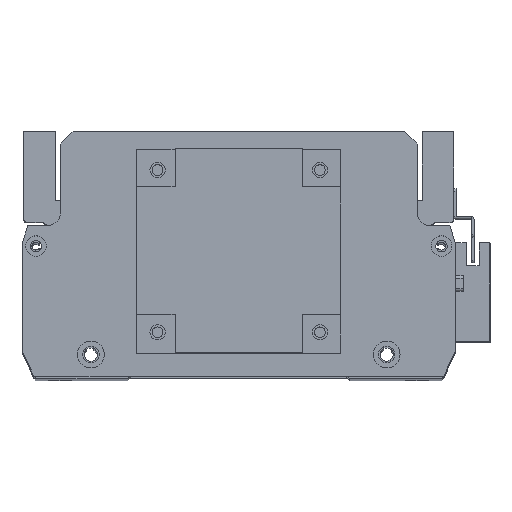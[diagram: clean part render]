
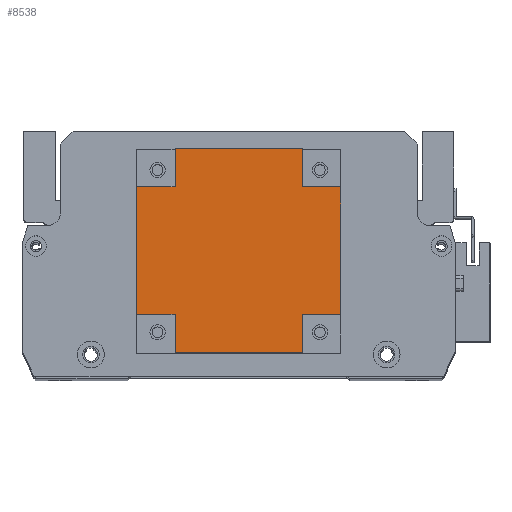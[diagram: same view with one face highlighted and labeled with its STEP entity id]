
A CAD part, top view. The second image highlights one B-rep face of the part: STEP entity #8538.
In plain terms, the highlighted planar face has unit normal (0, 0, 1).
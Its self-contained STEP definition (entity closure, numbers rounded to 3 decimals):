
#96 = LINE ( 'NONE', #6802, #19865 ) ;
#224 = VECTOR ( 'NONE', #14548, 1000. ) ;
#326 = VECTOR ( 'NONE', #13046, 1000. ) ;
#399 = VERTEX_POINT ( 'NONE', #22883 ) ;
#531 = DIRECTION ( 'NONE',  ( 0., 1., 0. ) ) ;
#580 = ORIENTED_EDGE ( 'NONE', *, *, #6416, .T. ) ;
#685 = LINE ( 'NONE', #22943, #24312 ) ;
#720 = EDGE_CURVE ( 'NONE', #11387, #9976, #16468, .T. ) ;
#909 = DIRECTION ( 'NONE',  ( 1., 0., 0. ) ) ;
#1146 = PLANE ( 'NONE',  #2883 ) ;
#1226 = DIRECTION ( 'NONE',  ( 0., 0., -1. ) ) ;
#1348 = VERTEX_POINT ( 'NONE', #3907 ) ;
#1460 = CARTESIAN_POINT ( 'NONE',  ( 80., 65., 101.5 ) ) ;
#1502 = CARTESIAN_POINT ( 'NONE',  ( 0., 15., 101.5 ) ) ;
#2211 = CARTESIAN_POINT ( 'NONE',  ( 0., 0., 101.5 ) ) ;
#2325 = CARTESIAN_POINT ( 'NONE',  ( 15., 80., 101.5 ) ) ;
#2433 = EDGE_CURVE ( 'NONE', #12394, #399, #15524, .T. ) ;
#2812 = VECTOR ( 'NONE', #17213, 1000. ) ;
#2883 = AXIS2_PLACEMENT_3D ( 'NONE', #5091, #1226, #14620 ) ;
#2977 = EDGE_CURVE ( 'NONE', #13350, #7252, #8654, .T. ) ;
#3517 = DIRECTION ( 'NONE',  ( 1., 0., 0. ) ) ;
#3907 = CARTESIAN_POINT ( 'NONE',  ( 15., 15., 101.5 ) ) ;
#4808 = ORIENTED_EDGE ( 'NONE', *, *, #7431, .T. ) ;
#4920 = DIRECTION ( 'NONE',  ( 0., -1., 0. ) ) ;
#4998 = VERTEX_POINT ( 'NONE', #9451 ) ;
#5091 = CARTESIAN_POINT ( 'NONE',  ( 0., 0., 101.5 ) ) ;
#6416 = EDGE_CURVE ( 'NONE', #9862, #399, #685, .T. ) ;
#6441 = VECTOR ( 'NONE', #13665, 1000. ) ;
#6666 = CARTESIAN_POINT ( 'NONE',  ( 0., 65., 101.5 ) ) ;
#6699 = CARTESIAN_POINT ( 'NONE',  ( 15., 0., 101.5 ) ) ;
#6792 = ORIENTED_EDGE ( 'NONE', *, *, #19340, .T. ) ;
#6802 = CARTESIAN_POINT ( 'NONE',  ( 80., 15., 101.5 ) ) ;
#6807 = ORIENTED_EDGE ( 'NONE', *, *, #14991, .F. ) ;
#7252 = VERTEX_POINT ( 'NONE', #20216 ) ;
#7264 = LINE ( 'NONE', #6699, #16751 ) ;
#7431 = EDGE_CURVE ( 'NONE', #13350, #12215, #10553, .T. ) ;
#7649 = LINE ( 'NONE', #2325, #17144 ) ;
#7694 = DIRECTION ( 'NONE',  ( 1., 0., 0. ) ) ;
#7701 = ORIENTED_EDGE ( 'NONE', *, *, #2977, .F. ) ;
#8464 = EDGE_CURVE ( 'NONE', #4998, #11929, #22726, .T. ) ;
#8538 = ADVANCED_FACE ( 'NONE', ( #15839 ), #1146, .F. ) ;
#8654 = LINE ( 'NONE', #23884, #23272 ) ;
#8856 = VECTOR ( 'NONE', #3517, 1000. ) ;
#8944 = CARTESIAN_POINT ( 'NONE',  ( 15., 80., 101.5 ) ) ;
#9451 = CARTESIAN_POINT ( 'NONE',  ( 0., 65., 101.5 ) ) ;
#9749 = ORIENTED_EDGE ( 'NONE', *, *, #720, .T. ) ;
#9862 = VERTEX_POINT ( 'NONE', #10621 ) ;
#9976 = VERTEX_POINT ( 'NONE', #1460 ) ;
#10521 = DIRECTION ( 'NONE',  ( 0., 1., 0. ) ) ;
#10553 = LINE ( 'NONE', #22648, #326 ) ;
#10621 = CARTESIAN_POINT ( 'NONE',  ( 15., 0., 101.5 ) ) ;
#11387 = VERTEX_POINT ( 'NONE', #12939 ) ;
#11430 = EDGE_CURVE ( 'NONE', #7252, #9976, #18972, .T. ) ;
#11836 = DIRECTION ( 'NONE',  ( 0., 1., 0. ) ) ;
#11929 = VERTEX_POINT ( 'NONE', #23311 ) ;
#12215 = VERTEX_POINT ( 'NONE', #8944 ) ;
#12394 = VERTEX_POINT ( 'NONE', #13424 ) ;
#12894 = VERTEX_POINT ( 'NONE', #1502 ) ;
#12939 = CARTESIAN_POINT ( 'NONE',  ( 80., 15., 101.5 ) ) ;
#13046 = DIRECTION ( 'NONE',  ( -1., 0., 0. ) ) ;
#13350 = VERTEX_POINT ( 'NONE', #20300 ) ;
#13424 = CARTESIAN_POINT ( 'NONE',  ( 65., 15., 101.5 ) ) ;
#13665 = DIRECTION ( 'NONE',  ( 0., -1., 0. ) ) ;
#14548 = DIRECTION ( 'NONE',  ( 0., -1., 0. ) ) ;
#14620 = DIRECTION ( 'NONE',  ( -1., 0., 0. ) ) ;
#14991 = EDGE_CURVE ( 'NONE', #1348, #12894, #18026, .T. ) ;
#15314 = CARTESIAN_POINT ( 'NONE',  ( 0., 15., 101.5 ) ) ;
#15524 = LINE ( 'NONE', #22155, #224 ) ;
#15839 = FACE_OUTER_BOUND ( 'NONE', #20024, .T. ) ;
#15894 = ORIENTED_EDGE ( 'NONE', *, *, #18788, .F. ) ;
#16429 = EDGE_CURVE ( 'NONE', #9862, #1348, #7264, .T. ) ;
#16468 = LINE ( 'NONE', #24250, #22174 ) ;
#16751 = VECTOR ( 'NONE', #10521, 1000. ) ;
#17144 = VECTOR ( 'NONE', #11836, 1000. ) ;
#17213 = DIRECTION ( 'NONE',  ( -1., 0., 0. ) ) ;
#17631 = VECTOR ( 'NONE', #909, 1000. ) ;
#18026 = LINE ( 'NONE', #15314, #2812 ) ;
#18415 = EDGE_CURVE ( 'NONE', #11387, #12394, #96, .T. ) ;
#18788 = EDGE_CURVE ( 'NONE', #11929, #12215, #7649, .T. ) ;
#18972 = LINE ( 'NONE', #24436, #8856 ) ;
#19340 = EDGE_CURVE ( 'NONE', #4998, #12894, #21025, .T. ) ;
#19703 = ORIENTED_EDGE ( 'NONE', *, *, #2433, .F. ) ;
#19865 = VECTOR ( 'NONE', #22133, 1000. ) ;
#20024 = EDGE_LOOP ( 'NONE', ( #4808, #15894, #20765, #6792, #6807, #20882, #580, #19703, #21634, #9749, #24347, #7701 ) ) ;
#20216 = CARTESIAN_POINT ( 'NONE',  ( 65., 65., 101.5 ) ) ;
#20300 = CARTESIAN_POINT ( 'NONE',  ( 65., 80., 101.5 ) ) ;
#20765 = ORIENTED_EDGE ( 'NONE', *, *, #8464, .F. ) ;
#20882 = ORIENTED_EDGE ( 'NONE', *, *, #16429, .F. ) ;
#21025 = LINE ( 'NONE', #2211, #6441 ) ;
#21634 = ORIENTED_EDGE ( 'NONE', *, *, #18415, .F. ) ;
#22133 = DIRECTION ( 'NONE',  ( -1., 0., 0. ) ) ;
#22155 = CARTESIAN_POINT ( 'NONE',  ( 65., 0., 101.5 ) ) ;
#22174 = VECTOR ( 'NONE', #531, 1000. ) ;
#22648 = CARTESIAN_POINT ( 'NONE',  ( 0., 80., 101.5 ) ) ;
#22726 = LINE ( 'NONE', #6666, #17631 ) ;
#22883 = CARTESIAN_POINT ( 'NONE',  ( 65., 0., 101.5 ) ) ;
#22943 = CARTESIAN_POINT ( 'NONE',  ( 0., 0., 101.5 ) ) ;
#23272 = VECTOR ( 'NONE', #4920, 1000. ) ;
#23311 = CARTESIAN_POINT ( 'NONE',  ( 15., 65., 101.5 ) ) ;
#23884 = CARTESIAN_POINT ( 'NONE',  ( 65., 80., 101.5 ) ) ;
#24250 = CARTESIAN_POINT ( 'NONE',  ( 80., 0., 101.5 ) ) ;
#24312 = VECTOR ( 'NONE', #7694, 1000. ) ;
#24347 = ORIENTED_EDGE ( 'NONE', *, *, #11430, .F. ) ;
#24436 = CARTESIAN_POINT ( 'NONE',  ( 65., 65., 101.5 ) ) ;
